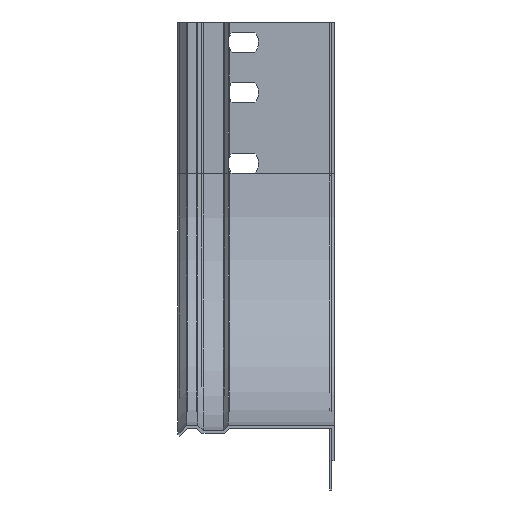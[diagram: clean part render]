
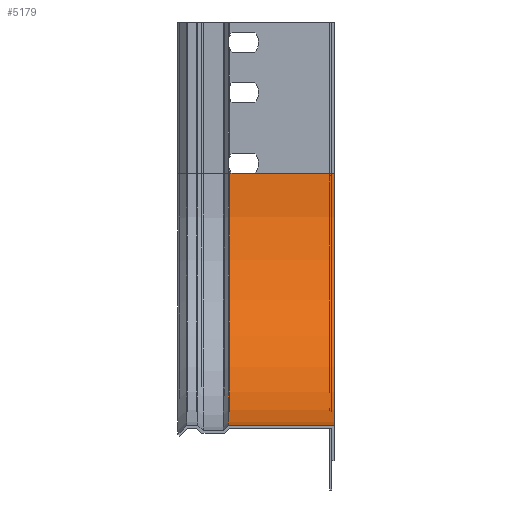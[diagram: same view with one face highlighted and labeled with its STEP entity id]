
A CAD part, left-side view. The second image highlights one B-rep face of the part: STEP entity #5179.
In plain terms, the highlighted cylindrical face has radius 100 mm (diameter 200 mm), a partial arc.
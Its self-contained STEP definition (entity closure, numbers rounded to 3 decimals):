
#182 = VECTOR ( 'NONE', #899, 1000. ) ;
#193 = VECTOR ( 'NONE', #782, 1000. ) ;
#214 = CIRCLE ( 'NONE', #2003, 100. ) ;
#573 = EDGE_CURVE ( 'NONE', #1361, #2249, #1566, .T. ) ;
#748 = DIRECTION ( 'NONE',  ( 0., 1., 0. ) ) ;
#764 = FACE_OUTER_BOUND ( 'NONE', #3013, .T. ) ;
#782 = DIRECTION ( 'NONE',  ( 0., 1., 0. ) ) ;
#783 = ORIENTED_EDGE ( 'NONE', *, *, #2283, .T. ) ;
#824 = CARTESIAN_POINT ( 'NONE',  ( -60., 0., 60. ) ) ;
#888 = EDGE_CURVE ( 'NONE', #3183, #1361, #1015, .T. ) ;
#899 = DIRECTION ( 'NONE',  ( 0., 1., 0. ) ) ;
#912 = VERTEX_POINT ( 'NONE', #2259 ) ;
#937 = CARTESIAN_POINT ( 'NONE',  ( -160., 42., 60. ) ) ;
#963 = ORIENTED_EDGE ( 'NONE', *, *, #3233, .T. ) ;
#982 = CARTESIAN_POINT ( 'NONE',  ( -60., 0., 160. ) ) ;
#1015 = LINE ( 'NONE', #2659, #3256 ) ;
#1172 = DIRECTION ( 'NONE',  ( 0., -1., 0. ) ) ;
#1253 = CYLINDRICAL_SURFACE ( 'NONE', #4942, 100. ) ;
#1274 = VERTEX_POINT ( 'NONE', #937 ) ;
#1351 = CARTESIAN_POINT ( 'NONE',  ( -60., 0., 160. ) ) ;
#1361 = VERTEX_POINT ( 'NONE', #2407 ) ;
#1365 = VECTOR ( 'NONE', #748, 1000. ) ;
#1415 = DIRECTION ( 'NONE',  ( 0., 1., 0. ) ) ;
#1425 = EDGE_CURVE ( 'NONE', #912, #4978, #2006, .T. ) ;
#1566 = LINE ( 'NONE', #4855, #1365 ) ;
#1651 = ORIENTED_EDGE ( 'NONE', *, *, #2004, .F. ) ;
#1720 = DIRECTION ( 'NONE',  ( 0., 0., -1. ) ) ;
#1739 = VECTOR ( 'NONE', #1415, 1000. ) ;
#1777 = CARTESIAN_POINT ( 'NONE',  ( -60., 40.472, 160. ) ) ;
#1793 = LINE ( 'NONE', #982, #1739 ) ;
#1973 = LINE ( 'NONE', #4474, #193 ) ;
#1986 = CARTESIAN_POINT ( 'NONE',  ( -60., 0., 60. ) ) ;
#2003 = AXIS2_PLACEMENT_3D ( 'NONE', #4873, #1172, #2851 ) ;
#2004 = EDGE_CURVE ( 'NONE', #4978, #4828, #4586, .T. ) ;
#2006 = LINE ( 'NONE', #2923, #2919 ) ;
#2249 = VERTEX_POINT ( 'NONE', #2929 ) ;
#2259 = CARTESIAN_POINT ( 'NONE',  ( -60., 31.528, 160. ) ) ;
#2283 = EDGE_CURVE ( 'NONE', #2725, #3183, #2410, .T. ) ;
#2382 = DIRECTION ( 'NONE',  ( 0., -1., 0. ) ) ;
#2407 = CARTESIAN_POINT ( 'NONE',  ( -160., 31.528, 60. ) ) ;
#2410 = CIRCLE ( 'NONE', #2666, 100. ) ;
#2496 = DIRECTION ( 'NONE',  ( 0., -1., 0. ) ) ;
#2659 = CARTESIAN_POINT ( 'NONE',  ( -160., 0., 60. ) ) ;
#2666 = AXIS2_PLACEMENT_3D ( 'NONE', #824, #2496, #1720 ) ;
#2725 = VERTEX_POINT ( 'NONE', #2924 ) ;
#2851 = DIRECTION ( 'NONE',  ( 0., 0., -1. ) ) ;
#2899 = DIRECTION ( 'NONE',  ( 0., 0., -1. ) ) ;
#2919 = VECTOR ( 'NONE', #3645, 1000. ) ;
#2923 = CARTESIAN_POINT ( 'NONE',  ( -60., 40.472, 160. ) ) ;
#2924 = CARTESIAN_POINT ( 'NONE',  ( -60., 0., 160. ) ) ;
#2929 = CARTESIAN_POINT ( 'NONE',  ( -160., 40.472, 60. ) ) ;
#2934 = CARTESIAN_POINT ( 'NONE',  ( -60., 42., 160. ) ) ;
#2976 = EDGE_CURVE ( 'NONE', #2725, #912, #1793, .T. ) ;
#3013 = EDGE_LOOP ( 'NONE', ( #4418, #783, #3860, #3508, #963, #3908, #1651, #4489 ) ) ;
#3183 = VERTEX_POINT ( 'NONE', #3640 ) ;
#3233 = EDGE_CURVE ( 'NONE', #2249, #1274, #1973, .T. ) ;
#3256 = VECTOR ( 'NONE', #4303, 1000. ) ;
#3508 = ORIENTED_EDGE ( 'NONE', *, *, #573, .T. ) ;
#3640 = CARTESIAN_POINT ( 'NONE',  ( -160., 0., 60. ) ) ;
#3645 = DIRECTION ( 'NONE',  ( 0., 1., 0. ) ) ;
#3860 = ORIENTED_EDGE ( 'NONE', *, *, #888, .T. ) ;
#3908 = ORIENTED_EDGE ( 'NONE', *, *, #4876, .F. ) ;
#4303 = DIRECTION ( 'NONE',  ( 0., 1., 0. ) ) ;
#4418 = ORIENTED_EDGE ( 'NONE', *, *, #2976, .F. ) ;
#4474 = CARTESIAN_POINT ( 'NONE',  ( -160., 0., 60. ) ) ;
#4489 = ORIENTED_EDGE ( 'NONE', *, *, #1425, .F. ) ;
#4586 = LINE ( 'NONE', #1351, #182 ) ;
#4828 = VERTEX_POINT ( 'NONE', #2934 ) ;
#4855 = CARTESIAN_POINT ( 'NONE',  ( -160., 40.472, 60. ) ) ;
#4873 = CARTESIAN_POINT ( 'NONE',  ( -60., 42., 60. ) ) ;
#4876 = EDGE_CURVE ( 'NONE', #4828, #1274, #214, .T. ) ;
#4942 = AXIS2_PLACEMENT_3D ( 'NONE', #1986, #2382, #2899 ) ;
#4978 = VERTEX_POINT ( 'NONE', #1777 ) ;
#5179 = ADVANCED_FACE ( 'NONE', ( #764 ), #1253, .F. ) ;
